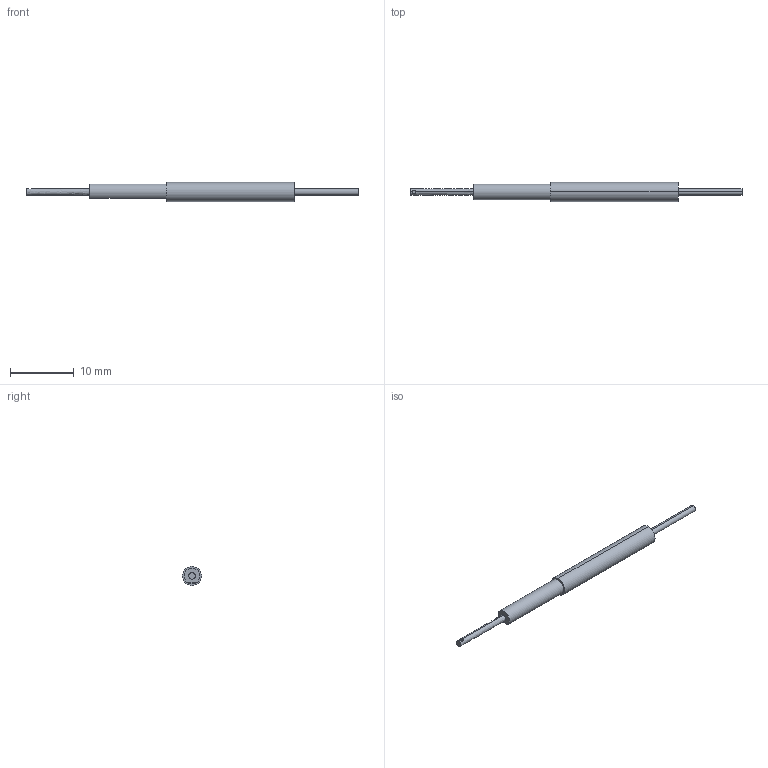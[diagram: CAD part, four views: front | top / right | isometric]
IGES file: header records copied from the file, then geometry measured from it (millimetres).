
Start section: SolidWorks IGES FILE using analytic representation for surfaces
Global section: file name: \\intra-srv04\開発データ\CAD_Data\CAD委員会\3D電子ｶﾀﾛｸﾞ\製品カタログ（新）\0_IGES\FT-V41.IGS,41HSolidWorks 2004; native system: by SolidWorks Corporation; preprocessor: Version 5.3; author: mf1158; date: 050908.112901; units: millimetre
Bounding box: 52 x 3 x 3 mm (x, y, z)
Volume: 211 mm3; surface area: 368.3 mm2
Topology: 1 solids, 1 shells, 19 faces, 40 edges, 26 vertices
Faces by surface type: revolution 11, plane 8
